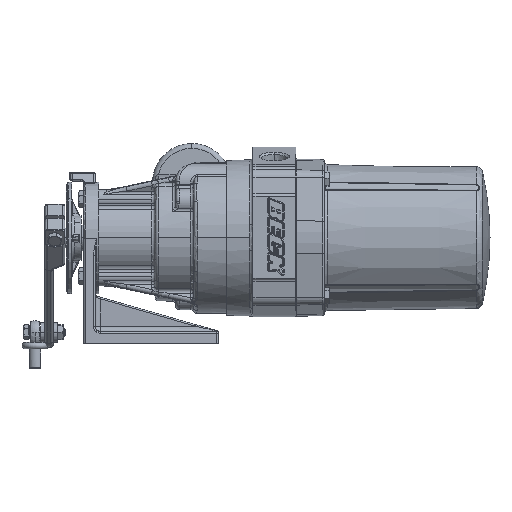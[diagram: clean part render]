
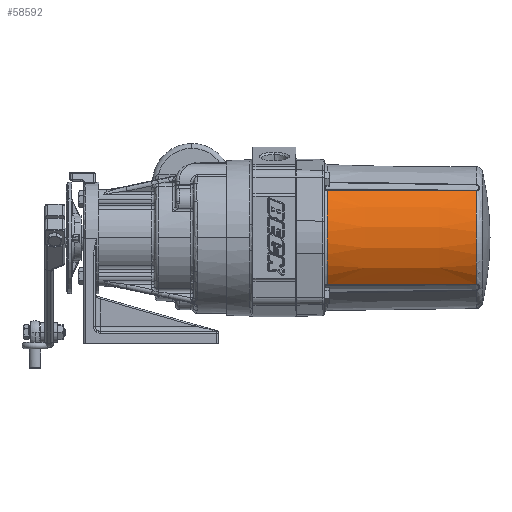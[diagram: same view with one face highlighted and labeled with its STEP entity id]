
A CAD part, top view. The second image highlights one B-rep face of the part: STEP entity #58592.
In plain terms, the highlighted conical face has half-angle 0.816 degrees and reference radius 68.542 mm.
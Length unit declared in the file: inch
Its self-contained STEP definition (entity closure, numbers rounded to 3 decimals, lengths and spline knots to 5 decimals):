
#5082 = AXIS2_PLACEMENT_3D ( 'NONE', #28587, #28589, #28592 ) ;
#5791 = CARTESIAN_POINT ( 'NONE',  ( 1.24822, -1.80344, 2.1145 ) ) ;
#5793 = CARTESIAN_POINT ( 'NONE',  ( 2.19162, -1.79937, 2.10031 ) ) ;
#5796 = CARTESIAN_POINT ( 'NONE',  ( 3.13501, -1.796, 2.08551 ) ) ;
#5797 = CARTESIAN_POINT ( 'NONE',  ( 5.02178, -1.79117, 2.05414 ) ) ;
#5799 = CARTESIAN_POINT ( 'NONE',  ( 5.96515, -1.78968, 2.03761 ) ) ;
#5801 = CARTESIAN_POINT ( 'NONE',  ( 6.90849, -1.78976, 2.01959 ) ) ;
#5935 = CARTESIAN_POINT ( 'NONE',  ( 6.90849, 1.78976, 2.01959 ) ) ;
#5937 = CARTESIAN_POINT ( 'NONE',  ( 5.96515, 1.78968, 2.03761 ) ) ;
#5939 = CARTESIAN_POINT ( 'NONE',  ( 5.02178, 1.79117, 2.05414 ) ) ;
#5941 = CARTESIAN_POINT ( 'NONE',  ( 3.13501, 1.796, 2.08551 ) ) ;
#5944 = CARTESIAN_POINT ( 'NONE',  ( 2.19162, 1.79937, 2.10031 ) ) ;
#5945 = CARTESIAN_POINT ( 'NONE',  ( 1.24822, 1.80344, 2.1145 ) ) ;
#6044 = CARTESIAN_POINT ( 'NONE',  ( 1.24822, 0., 0. ) ) ;
#6047 = DIRECTION ( 'NONE',  ( 1., 0., 0. ) ) ;
#6049 = DIRECTION ( 'NONE',  ( 0., -1., 0. ) ) ;
#6062 = AXIS2_PLACEMENT_3D ( 'NONE', #6044, #6047, #6049 ) ;
#28587 = CARTESIAN_POINT ( 'NONE',  ( 6.90849, 0., 0. ) ) ;
#28589 = DIRECTION ( 'NONE',  ( 1., 0., 0. ) ) ;
#28592 = DIRECTION ( 'NONE',  ( 0., 1., 0. ) ) ;
#33704 = CARTESIAN_POINT ( 'NONE',  ( 6.90849, 0., 0. ) ) ;
#33705 = DIRECTION ( 'NONE',  ( -1., 0., 0. ) ) ;
#33706 = DIRECTION ( 'NONE',  ( 0., -1., 0. ) ) ;
#40133 = FACE_OUTER_BOUND ( 'NONE', #166694, .T. ) ;
#40722 = CONICAL_SURFACE ( 'NONE', #185261, 2.69852, 0.014 ) ;
#52463 = VERTEX_POINT ( 'NONE', #143425 ) ;
#52607 = VERTEX_POINT ( 'NONE', #98692 ) ;
#52756 = VERTEX_POINT ( 'NONE', #98848 ) ;
#52992 = VERTEX_POINT ( 'NONE', #99063 ) ;
#58592 = ADVANCED_FACE ( 'NONE', ( #40133 ), #40722, .T. ) ;
#75565 = CIRCLE ( 'NONE', #6062, 2.77912 ) ;
#75736 = EDGE_CURVE ( 'NONE', #52756, #52992, #120525, .T. ) ;
#75800 = EDGE_CURVE ( 'NONE', #52463, #52992, #83037, .T. ) ;
#75815 = EDGE_CURVE ( 'NONE', #52756, #52607, #83044, .T. ) ;
#75844 = EDGE_CURVE ( 'NONE', #52607, #52463, #75565, .T. ) ;
#83037 = B_SPLINE_CURVE_WITH_KNOTS ( 'NONE', 3,
 ( #5791, #5793, #5796, #5797, #5799, #5801 ),
 .UNSPECIFIED., .F., .F.,
 ( 4, 2, 4 ),
 ( 0., 0.0719, 0.14379 ),
 .UNSPECIFIED. ) ;
#83044 = B_SPLINE_CURVE_WITH_KNOTS ( 'NONE', 3,
 ( #5935, #5937, #5939, #5941, #5944, #5945 ),
 .UNSPECIFIED., .F., .F.,
 ( 4, 2, 4 ),
 ( 0., 0.0719, 0.14379 ),
 .UNSPECIFIED. ) ;
#98692 = CARTESIAN_POINT ( 'NONE',  ( 1.24822, 1.80344, 2.1145 ) ) ;
#98848 = CARTESIAN_POINT ( 'NONE',  ( 6.90849, 1.78976, 2.01959 ) ) ;
#99063 = CARTESIAN_POINT ( 'NONE',  ( 6.90849, -1.78976, 2.01959 ) ) ;
#120525 = CIRCLE ( 'NONE', #5082, 2.69852 ) ;
#143425 = CARTESIAN_POINT ( 'NONE',  ( 1.24822, -1.80344, 2.1145 ) ) ;
#162131 = ORIENTED_EDGE ( 'NONE', *, *, #75736, .F. ) ;
#162132 = ORIENTED_EDGE ( 'NONE', *, *, #75815, .T. ) ;
#162133 = ORIENTED_EDGE ( 'NONE', *, *, #75844, .T. ) ;
#162134 = ORIENTED_EDGE ( 'NONE', *, *, #75800, .T. ) ;
#166694 = EDGE_LOOP ( 'NONE', ( #162131, #162132, #162133, #162134 ) ) ;
#185261 = AXIS2_PLACEMENT_3D ( 'NONE', #33704, #33705, #33706 ) ;
